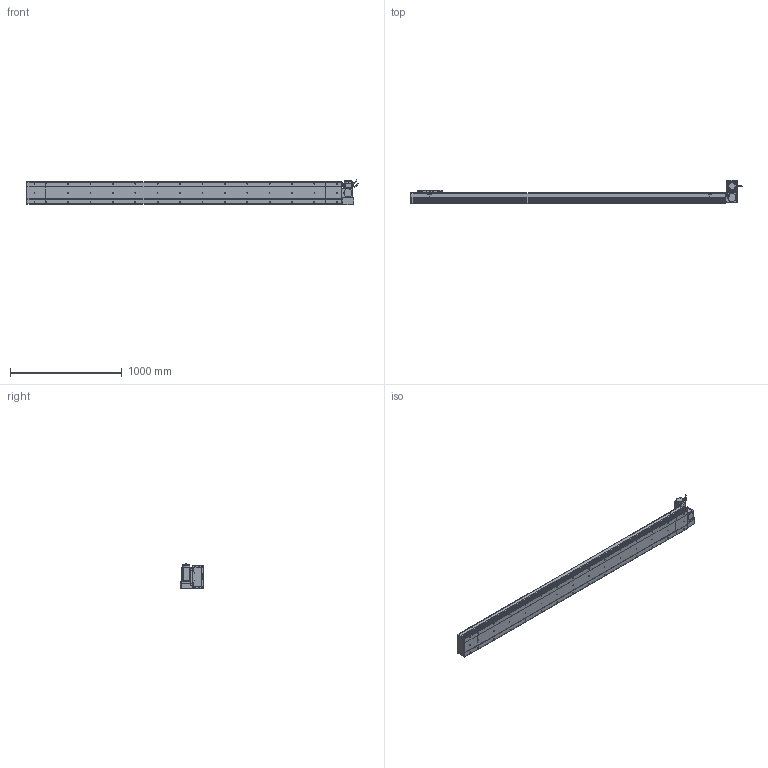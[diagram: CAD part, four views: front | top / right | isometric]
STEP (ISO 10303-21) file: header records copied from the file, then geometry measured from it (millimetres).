
FILE_DESCRIPTION (( 'STEP AP214' ), '1' );
FILE_NAME ('D20 CBH RT S2500.STEP', '2010-06-30T10:15:28', ( 'Conseil Régional Haute-Normandie' ), ( 'Conseil Régional Haute-Normandie' ), 'SwSTEP 2.0', 'SolidWorks 2010', '' );
FILE_SCHEMA (( 'AUTOMOTIVE_DESIGN' ));
Length unit declared in the file: millimetre
Products named in the file (31): Plaque de Bout Tail D20_Default; Couvercle_Default; Corp Tail D20+100_Default; vis M5 L15_Default; Plaque De Serrage D20_Default; Tail D20+100_Default; Couvercle S2500_Default; Corp S2500_Default; Corp D20 S2500_Default; D20 CBH RT S2500; Couvercle RT_Default; Corp Tail D20 RT_Default; Head RT_Default; Support moteur RT_Default; Plaque De Serrage D20 RT_Default; Plaque de Bout Head D20 RT_Default; corps 90BLDC125A-640; avant 90BLDC125A-640; Moteur motionking 90BLDC125A-640; Conecteur_Default; Conecteur2_Default; codeur 90BLDC125-640; Cache Support Moteur RT_Default; ecrou_Default; vis M5 L30_Default; Chariot D20_Default; Rondelle Cache D20 RT_Default; vis M5 L47_Default; Glissiere_Default; Support Chariot D20_Default
Assembly tree (68 placements, depth 4):
  D20 CBH RT S2500
    Tail D20+100_Default
      Plaque De Serrage D20_Default
      Couvercle_Default
      Plaque de Bout Tail D20_Default
      vis M5 L15_Default  x6
      Corp Tail D20+100_Default
    Chariot D20_Default
      vis M5 L15_Default  x8
      Chariot D20_Default
      Support Chariot D20_Default
      Glissiere_Default
    Corp D20 S2500_Default
      Couvercle S2500_Default
      Corp S2500_Default
    Head RT_Default
      vis M5 L15_Default  x14
      vis M5 L47_Default  x4
      Corp Tail D20 RT_Default
      ecrou_Default  x4
      Support moteur RT_Default
      Rondelle Cache D20 RT_Default  x3
      Couvercle RT_Default
      vis M5 L30_Default  x4
      Plaque De Serrage D20 RT_Default
      Cache Support Moteur RT_Default
      Moteur motionking 90BLDC125A-640
        avant 90BLDC125A-640
        corps 90BLDC125A-640
        Conecteur_Default
        Conecteur2_Default
        codeur 90BLDC125-640
      Plaque de Bout Head D20 RT_Default
Bounding box: 2964.45 x 206.5 x 229.7 mm (x, y, z)
Volume: 20082598.8 mm3; surface area: 3889124.2 mm2
Topology: 105 solids, 105 shells, 3847 faces, 9570 edges, 6214 vertices
Faces by surface type: plane 2140, bspline 806, cylinder 730, torus 95, cone 72, sphere 4
Entity records: 160310 total; most frequent: CARTESIAN_POINT 82463, ORIENTED_EDGE 15408, DIRECTION 11782, EDGE_CURVE 7704, VERTEX_POINT 5098, VECTOR 4972, LINE 4972, AXIS2_PLACEMENT_3D 3405
